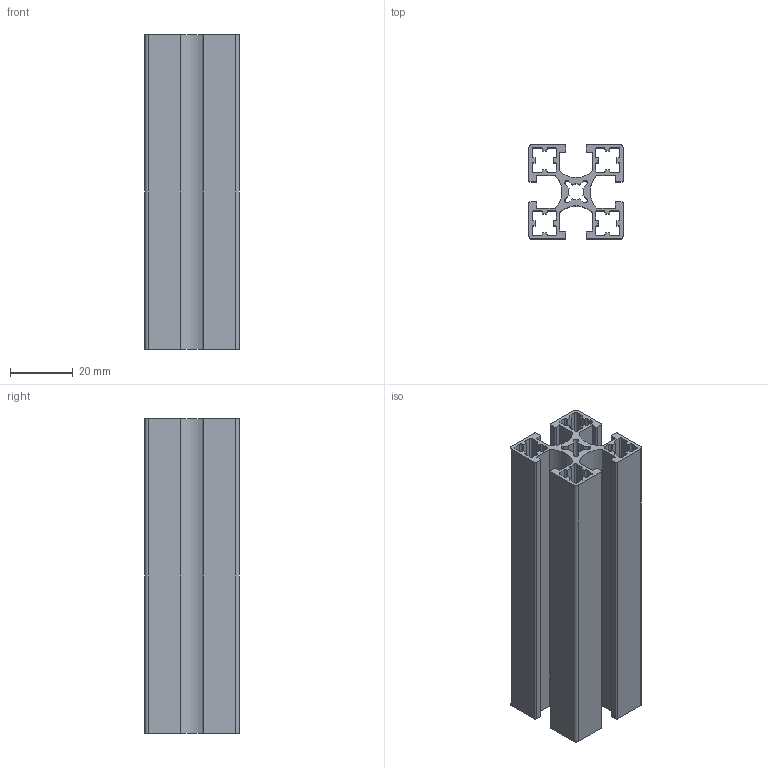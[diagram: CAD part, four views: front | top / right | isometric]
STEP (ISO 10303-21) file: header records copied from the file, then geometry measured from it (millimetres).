
FILE_DESCRIPTION (( 'STEP AP203' ), '1' );
FILE_NAME ('WS3030M-6.STEP', '2024-02-17T06:41:11', ( '' ), ( '' ), 'SwSTEP 2.0', 'SolidWorks 2022', '' );
FILE_SCHEMA (( 'CONFIG_CONTROL_DESIGN' ));
Length unit declared in the file: millimetre
Products named in the file (1): WS3030M-6
Bounding box: 30 x 30 x 100 mm (x, y, z)
Volume: 27313.7 mm3; surface area: 40486.4 mm2
Topology: 1 solids, 1 shells, 210 faces, 624 edges, 416 vertices
Faces by surface type: plane 106, cylinder 104
Entity records: 7193 total; most frequent: DIRECTION 1254, CARTESIAN_POINT 1251, ORIENTED_EDGE 1248, EDGE_CURVE 624, AXIS2_PLACEMENT_3D 419, VECTOR 416, VERTEX_POINT 416, LINE 416
